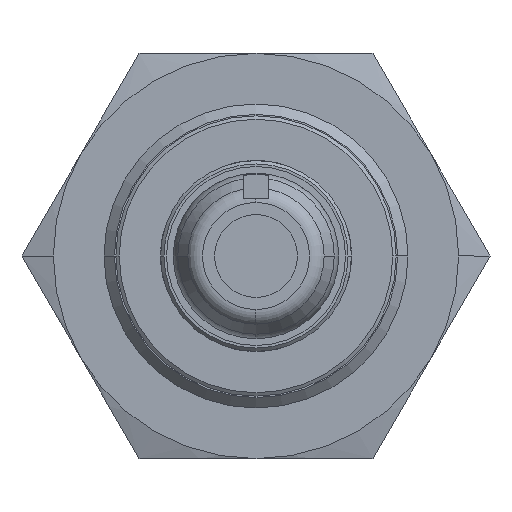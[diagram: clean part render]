
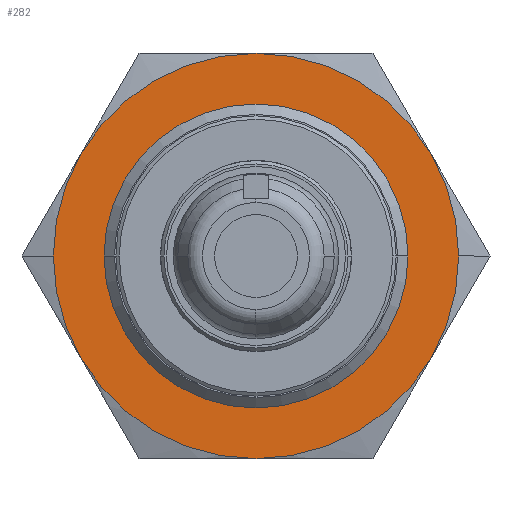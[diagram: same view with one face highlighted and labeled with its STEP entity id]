
A CAD part, left-side view. The second image highlights one B-rep face of the part: STEP entity #282.
In plain terms, the highlighted planar face has unit normal (-1, 0, 0).
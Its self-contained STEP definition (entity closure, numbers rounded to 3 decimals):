
#282 = ADVANCED_FACE( '', ( #548, #549 ), #550, .T. );
#548 = FACE_BOUND( '', #847, .T. );
#549 = FACE_OUTER_BOUND( '', #848, .T. );
#550 = PLANE( '', #849 );
#847 = EDGE_LOOP( '', ( #1765, #1766 ) );
#848 = EDGE_LOOP( '', ( #1767, #1768, #1769, #1770, #1771, #1772, #1773, #1774 ) );
#849 = AXIS2_PLACEMENT_3D( '', #1775, #1776, #1777 );
#1765 = ORIENTED_EDGE( '', *, *, #2222, .T. );
#1766 = ORIENTED_EDGE( '', *, *, #2210, .T. );
#1767 = ORIENTED_EDGE( '', *, *, #2260, .T. );
#1768 = ORIENTED_EDGE( '', *, *, #2199, .T. );
#1769 = ORIENTED_EDGE( '', *, *, #2255, .T. );
#1770 = ORIENTED_EDGE( '', *, *, #2256, .T. );
#1771 = ORIENTED_EDGE( '', *, *, #2201, .T. );
#1772 = ORIENTED_EDGE( '', *, *, #2257, .T. );
#1773 = ORIENTED_EDGE( '', *, *, #2258, .T. );
#1774 = ORIENTED_EDGE( '', *, *, #2259, .T. );
#1775 = CARTESIAN_POINT( '', ( 55., 6., 0. ) );
#1776 = DIRECTION( '', ( -1., 0., 0. ) );
#1777 = DIRECTION( '', ( 0., 1., 0. ) );
#2199 = EDGE_CURVE( '', #2659, #2661, #2663, .T. );
#2201 = EDGE_CURVE( '', #2667, #2664, #2668, .T. );
#2210 = EDGE_CURVE( '', #2685, #2682, #2686, .T. );
#2222 = EDGE_CURVE( '', #2682, #2685, #2703, .T. );
#2255 = EDGE_CURVE( '', #2661, #2709, #2752, .T. );
#2256 = EDGE_CURVE( '', #2709, #2667, #2753, .T. );
#2257 = EDGE_CURVE( '', #2664, #2740, #2754, .T. );
#2258 = EDGE_CURVE( '', #2740, #2732, #2755, .T. );
#2259 = EDGE_CURVE( '', #2732, #2719, #2756, .T. );
#2260 = EDGE_CURVE( '', #2719, #2659, #2757, .T. );
#2659 = VERTEX_POINT( '', #3443 );
#2661 = VERTEX_POINT( '', #3446 );
#2663 = CIRCLE( '', #3457, 12. );
#2664 = VERTEX_POINT( '', #3458 );
#2667 = VERTEX_POINT( '', #3462 );
#2668 = CIRCLE( '', #3463, 12. );
#2682 = VERTEX_POINT( '', #3506 );
#2685 = VERTEX_POINT( '', #3510 );
#2686 = CIRCLE( '', #3511, 8. );
#2703 = CIRCLE( '', #3533, 8. );
#2709 = VERTEX_POINT( '', #3549 );
#2719 = VERTEX_POINT( '', #3597 );
#2732 = VERTEX_POINT( '', #3674 );
#2740 = VERTEX_POINT( '', #3719 );
#2752 = CIRCLE( '', #3768, 12. );
#2753 = CIRCLE( '', #3769, 12. );
#2754 = CIRCLE( '', #3770, 12. );
#2755 = CIRCLE( '', #3771, 12. );
#2756 = CIRCLE( '', #3772, 12. );
#2757 = CIRCLE( '', #3773, 12. );
#3443 = CARTESIAN_POINT( '', ( 55., 12., 0. ) );
#3446 = CARTESIAN_POINT( '', ( 55., 10.392, -6. ) );
#3457 = AXIS2_PLACEMENT_3D( '', #4548, #4549, #4550 );
#3458 = CARTESIAN_POINT( '', ( 55., -12., 0. ) );
#3462 = CARTESIAN_POINT( '', ( 55., -10.392, -6. ) );
#3463 = AXIS2_PLACEMENT_3D( '', #4552, #4553, #4554 );
#3506 = CARTESIAN_POINT( '', ( 55., 8., 0. ) );
#3510 = CARTESIAN_POINT( '', ( 55., -8., 0. ) );
#3511 = AXIS2_PLACEMENT_3D( '', #4564, #4565, #4566 );
#3533 = AXIS2_PLACEMENT_3D( '', #4590, #4591, #4592 );
#3549 = CARTESIAN_POINT( '', ( 55., 0., -12. ) );
#3597 = CARTESIAN_POINT( '', ( 55., 10.392, 6. ) );
#3674 = CARTESIAN_POINT( '', ( 55., 0., 12. ) );
#3719 = CARTESIAN_POINT( '', ( 55., -10.392, 6. ) );
#3768 = AXIS2_PLACEMENT_3D( '', #4617, #4618, #4619 );
#3769 = AXIS2_PLACEMENT_3D( '', #4620, #4621, #4622 );
#3770 = AXIS2_PLACEMENT_3D( '', #4623, #4624, #4625 );
#3771 = AXIS2_PLACEMENT_3D( '', #4626, #4627, #4628 );
#3772 = AXIS2_PLACEMENT_3D( '', #4629, #4630, #4631 );
#3773 = AXIS2_PLACEMENT_3D( '', #4632, #4633, #4634 );
#4548 = CARTESIAN_POINT( '', ( 55., 0., 0. ) );
#4549 = DIRECTION( '', ( -1., 0., 0. ) );
#4550 = DIRECTION( '', ( 0., 1., 0. ) );
#4552 = CARTESIAN_POINT( '', ( 55., 0., 0. ) );
#4553 = DIRECTION( '', ( -1., 0., 0. ) );
#4554 = DIRECTION( '', ( 0., 1., 0. ) );
#4564 = CARTESIAN_POINT( '', ( 55., 0., 0. ) );
#4565 = DIRECTION( '', ( 1., 0., 0. ) );
#4566 = DIRECTION( '', ( 0., 1., 0. ) );
#4590 = CARTESIAN_POINT( '', ( 55., 0., 0. ) );
#4591 = DIRECTION( '', ( 1., 0., 0. ) );
#4592 = DIRECTION( '', ( 0., 1., 0. ) );
#4617 = CARTESIAN_POINT( '', ( 55., 0., 0. ) );
#4618 = DIRECTION( '', ( -1., 0., 0. ) );
#4619 = DIRECTION( '', ( 0., 1., 0. ) );
#4620 = CARTESIAN_POINT( '', ( 55., 0., 0. ) );
#4621 = DIRECTION( '', ( -1., 0., 0. ) );
#4622 = DIRECTION( '', ( 0., 1., 0. ) );
#4623 = CARTESIAN_POINT( '', ( 55., 0., 0. ) );
#4624 = DIRECTION( '', ( -1., 0., 0. ) );
#4625 = DIRECTION( '', ( 0., 1., 0. ) );
#4626 = CARTESIAN_POINT( '', ( 55., 0., 0. ) );
#4627 = DIRECTION( '', ( -1., 0., 0. ) );
#4628 = DIRECTION( '', ( 0., 1., 0. ) );
#4629 = CARTESIAN_POINT( '', ( 55., 0., 0. ) );
#4630 = DIRECTION( '', ( -1., 0., 0. ) );
#4631 = DIRECTION( '', ( 0., 1., 0. ) );
#4632 = CARTESIAN_POINT( '', ( 55., 0., 0. ) );
#4633 = DIRECTION( '', ( -1., 0., 0. ) );
#4634 = DIRECTION( '', ( 0., 1., 0. ) );
